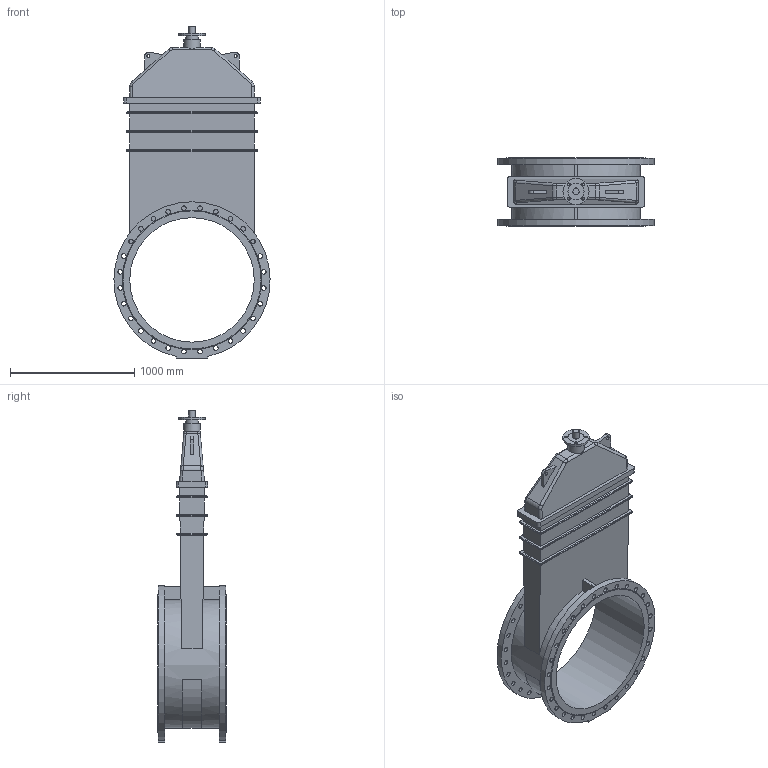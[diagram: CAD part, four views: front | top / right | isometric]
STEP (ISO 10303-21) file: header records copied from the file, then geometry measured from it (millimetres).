
FILE_DESCRIPTION(('STEP AP203'), '1');
FILE_NAME('Çàäâèæêà 47GVA DN1000 PN10_F16 áåç èñïîëíèò. ìåõ.', '', ('UNSPECIFIED'), ('UNSPECIFIED'), 'ASCON STEP Converter 1.6', 'ASCON Math Kernel', '');
FILE_SCHEMA(('CONFIG_CONTROL_DESIGN'));
Length unit declared in the file: millimetre
Bounding box: 1254.88 x 550 x 2667.5 mm (x, y, z)
Volume: 327504480.2 mm3; surface area: 9405283.4 mm2
Topology: 1 solids, 1 shells, 269 faces, 666 edges, 422 vertices
Faces by surface type: cylinder 138, plane 97, bspline 32, cone 2
Full cylindrical faces by diameter (mm): 22 x4, 25 x2, 37 x56, 50 x1, 100 x1, 130 x2, 210 x1, 1000 x1
Entity records: 12631 total; most frequent: CARTESIAN_POINT 4217, DIRECTION 1228, ORIENTED_EDGE 1192, EDGE_CURVE 596, EDGE_LOOP 488, AXIS2_PLACEMENT_3D 478, VERTEX_POINT 422, FACE_BOUND 349
